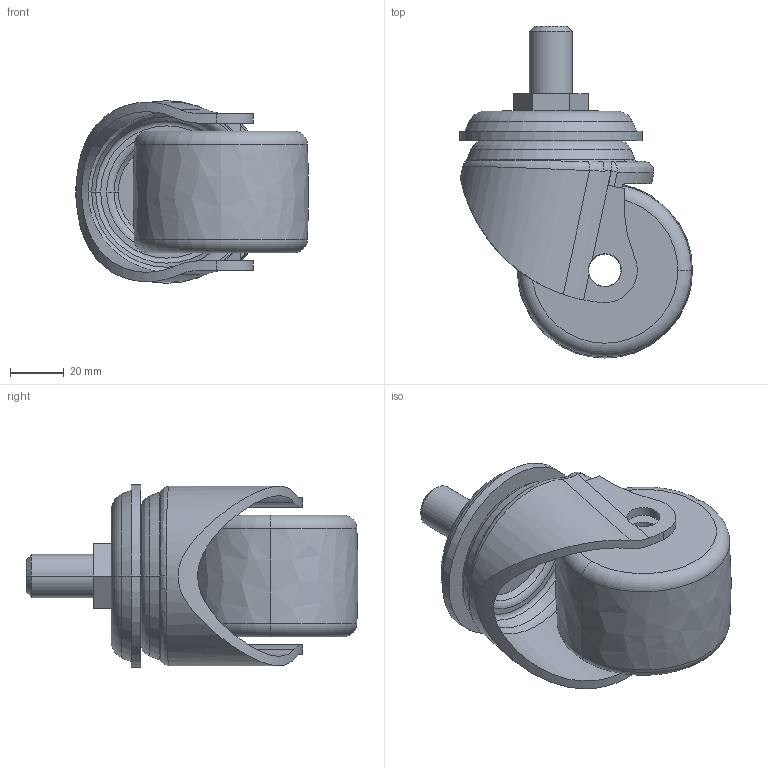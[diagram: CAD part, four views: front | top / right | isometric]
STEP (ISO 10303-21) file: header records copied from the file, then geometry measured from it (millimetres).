
FILE_DESCRIPTION((''),'2;1');
FILE_NAME('M45325_ASM','2024-01-23T',('Lenovo'),(''),'PRO/ENGINEER BY PARAMETRIC TECHNOLOGY CORPORATION, 2010280','PRO/ENGINEER BY PARAMETRIC TECHNOLOGY CORPORATION, 2010280','');
FILE_SCHEMA(('CONFIG_CONTROL_DESIGN'));
Length unit declared in the file: millimetre
Products named in the file (5): M45325-311; M4530-211; M4530-053; M4525-916; M45325_ASM
Assembly tree (4 placements, depth 2):
  M45325_ASM
    M45325-311
    M4530-211
    M4530-053
    M4525-916
Bounding box: 86.28 x 122.95 x 67.66 mm (x, y, z)
Volume: 208511.8 mm3; surface area: 47802.2 mm2
Topology: 4 solids, 4 shells, 111 faces, 274 edges, 169 vertices
Faces by surface type: cylinder 31, plane 29, torus 22, cone 16, bspline 11, sphere 2
Entity records: 4295 total; most frequent: CARTESIAN_POINT 1577, DIRECTION 566, ORIENTED_EDGE 548, EDGE_CURVE 274, AXIS2_PLACEMENT_3D 237, VERTEX_POINT 169, CIRCLE 128, EDGE_LOOP 117
